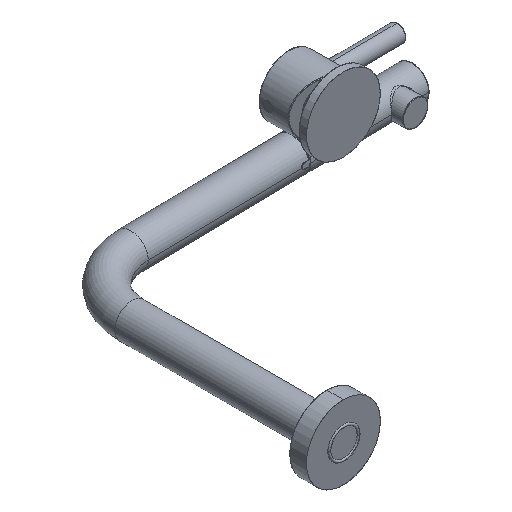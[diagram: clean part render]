
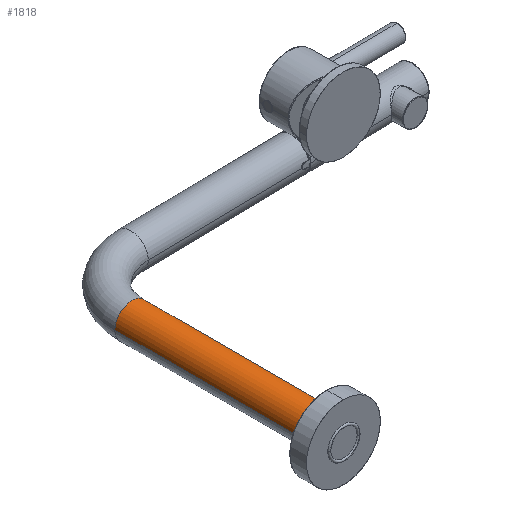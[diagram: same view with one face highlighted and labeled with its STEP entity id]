
A CAD part, isometric view. The second image highlights one B-rep face of the part: STEP entity #1818.
In plain terms, the highlighted cylindrical face has radius 12 mm (diameter 24 mm), a partial arc.
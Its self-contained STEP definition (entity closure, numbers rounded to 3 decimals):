
#213=CYLINDRICAL_SURFACE('',#3977,12.);
#254=LINE('',#4978,#376);
#255=LINE('',#4982,#377);
#376=VECTOR('',#4268,1.);
#377=VECTOR('',#4271,1.);
#536=CIRCLE('',#3975,12.);
#537=CIRCLE('',#3976,12.);
#1818=ADVANCED_FACE('',(#1961),#213,.T.);
#1961=FACE_OUTER_BOUND('',#2085,.T.);
#2085=EDGE_LOOP('',(#2229,#2230,#2231,#2232));
#2229=ORIENTED_EDGE('',*,*,#3317,.T.);
#2230=ORIENTED_EDGE('',*,*,#3318,.T.);
#2231=ORIENTED_EDGE('',*,*,#3319,.T.);
#2232=ORIENTED_EDGE('',*,*,#3320,.T.);
#2773=VERTEX_POINT('',#4976);
#2774=VERTEX_POINT('',#4977);
#2775=VERTEX_POINT('',#4979);
#2776=VERTEX_POINT('',#4981);
#3317=EDGE_CURVE('',#2773,#2774,#536,.T.);
#3318=EDGE_CURVE('',#2774,#2775,#254,.T.);
#3319=EDGE_CURVE('',#2775,#2776,#537,.T.);
#3320=EDGE_CURVE('',#2776,#2773,#255,.T.);
#3975=AXIS2_PLACEMENT_3D('',#4975,#4266,#4267);
#3976=AXIS2_PLACEMENT_3D('',#4980,#4269,#4270);
#3977=AXIS2_PLACEMENT_3D('',#4983,#4272,#4273);
#4266=DIRECTION('',(0.,-1.,0.));
#4267=DIRECTION('',(-0.998,0.,-0.063));
#4268=DIRECTION('',(0.,-1.,0.));
#4269=DIRECTION('',(0.,1.,0.));
#4270=DIRECTION('',(-0.998,0.,-0.063));
#4271=DIRECTION('',(0.,1.,0.));
#4272=DIRECTION('',(0.,1.,0.));
#4273=DIRECTION('',(-1.,0.,0.));
#4975=CARTESIAN_POINT('',(0.,148.986,0.));
#4976=CARTESIAN_POINT('',(12.,148.986,0.));
#4977=CARTESIAN_POINT('',(-12.,148.986,0.));
#4978=CARTESIAN_POINT('',(-12.,77.493,0.));
#4979=CARTESIAN_POINT('',(-12.,6.,0.));
#4980=CARTESIAN_POINT('',(0.,6.,0.));
#4981=CARTESIAN_POINT('',(12.,6.,0.));
#4982=CARTESIAN_POINT('',(12.,77.493,0.));
#4983=CARTESIAN_POINT('',(0.,3.14,0.));
